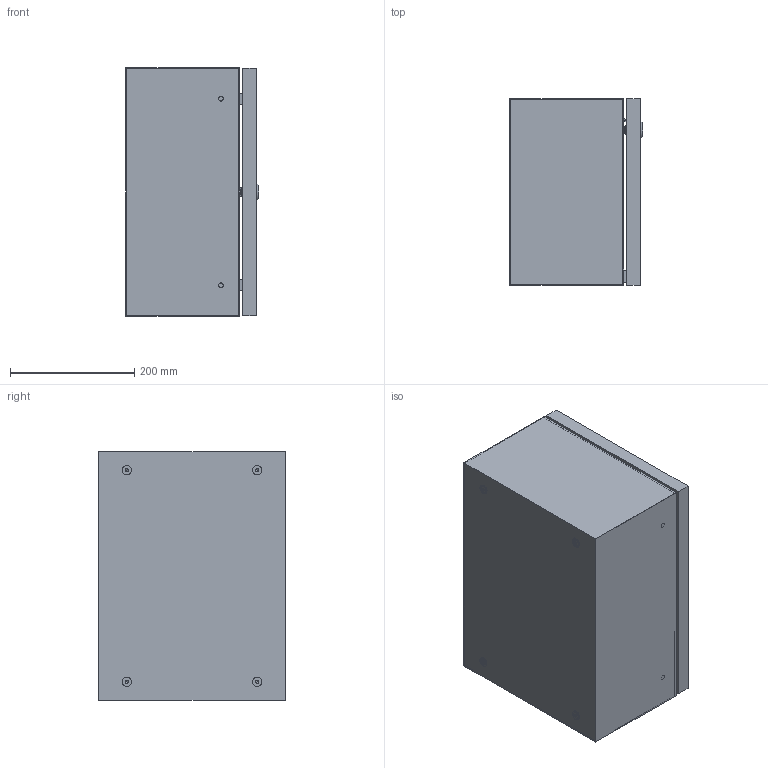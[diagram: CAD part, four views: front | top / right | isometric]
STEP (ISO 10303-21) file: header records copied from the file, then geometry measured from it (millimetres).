
FILE_DESCRIPTION(/* description */ ('Unknown'),/* implementation_level */ '2;1');
FILE_NAME(/* name */ 'CCA03004021',/* time_stamp */ '2024-07-26T09:04:47+02:00',/* author */ ('Unknown'),/* organization */ ('Unknown'),/* preprocessor_version */ 'ST-DEVELOPER v19.4',/* originating_system */ 'Solid Edge',/* authorisation */ 'Unknown');
FILE_SCHEMA (('AUTOMOTIVE_DESIGN {1 0 10303 214 3 1 1}'));
Length unit declared in the file: millimetre
Products named in the file (17): CCA03004021; C000X000.13_oa_0; C000X000.14_oa_1; C0000000.30; C0000000.02; AE00989.09; AE00198.02; AE00417.01; C0000000.40; C000X000.12_oa_2; C0000000.12; C0000000.04; C0000000.05; AE00316.01; AE00601.01; AE00891.02; C0000000.01
Assembly tree (35 placements, depth 4):
  CCA03004021
    C000X000.13_oa_0
      C000X000.14_oa_1
        C0000000.30
      C0000000.02  x2
      AE00989.09
      AE00198.02  x2
      AE00417.01  x2
    AE00198.02  x2
    C0000000.40
    C000X000.12_oa_2
      C0000000.12
      C0000000.04  x4
      C0000000.05  x4
      AE00316.01  x2
      AE00601.01  x2
      AE00891.02  x2
      C0000000.01  x2
      AE00417.01  x4
Bounding box: 215 x 300 x 400 mm (x, y, z)
Volume: 1206788.3 mm3; surface area: 1184874.2 mm2
Topology: 33 solids, 33 shells, 512 faces, 1213 edges, 793 vertices
Faces by surface type: plane 333, cylinder 117, cone 34, torus 28
Full cylindrical faces by diameter (mm): 4 x1, 4.917 x5, 4.918 x2, 5.4 x2, 6 x14, 6.4 x2, 7.5 x6, 8 x4, 8.376 x8, 10 x5, 10.25 x4, 10.5 x4, 11 x2, 13.6 x1, 14 x2, 15 x4, 16 x2, 16.3 x1, 19.5 x1, 28 x1
Entity records: 11410 total; most frequent: CARTESIAN_POINT 1750, DIRECTION 1682, ORIENTED_EDGE 1540, EDGE_CURVE 770, AXIS2_PLACEMENT_3D 569, LINE 544, VECTOR 544, VERTEX_POINT 528
